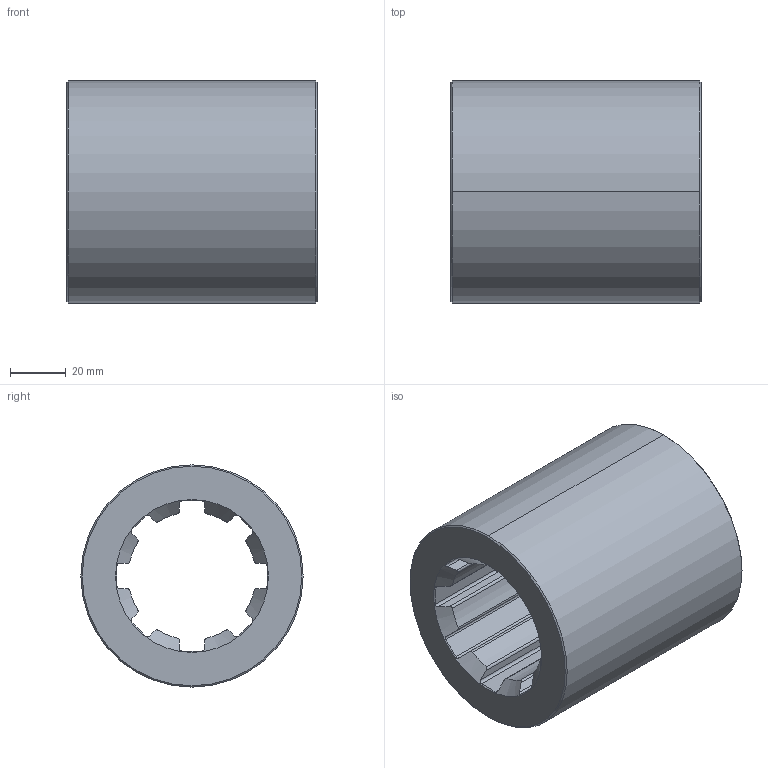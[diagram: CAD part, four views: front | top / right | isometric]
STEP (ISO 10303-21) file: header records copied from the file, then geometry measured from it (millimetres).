
FILE_DESCRIPTION((''),'2;1');
FILE_NAME('395-046-0000_PRT','2024-03-24T',('Brieden'),('ib-brieden'),'PRO/ENGINEER BY PARAMETRIC TECHNOLOGY CORPORATION, 2010160','PRO/ENGINEER BY PARAMETRIC TECHNOLOGY CORPORATION, 2010160','');
FILE_SCHEMA(('AUTOMOTIVE_DESIGN { 1 0 10303 214 1 1 1 1 }'));
Length unit declared in the file: millimetre
Products named in the file (1): 395-046-0000_PRT
Bounding box: 90 x 80 x 80 mm (x, y, z)
Volume: 274332.2 mm3; surface area: 46429.2 mm2
Topology: 1 solids, 1 shells, 76 faces, 218 edges, 144 vertices
Faces by surface type: cylinder 42, plane 26, cone 8
Entity records: 3818 total; most frequent: CARTESIAN_POINT 1304, ORIENTED_EDGE 436, DIRECTION 282, PRESENTATION_STYLE_ASSIGNMENT 219, STYLED_ITEM 219, CURVE_STYLE 218, EDGE_CURVE 218, VERTEX_POINT 144
